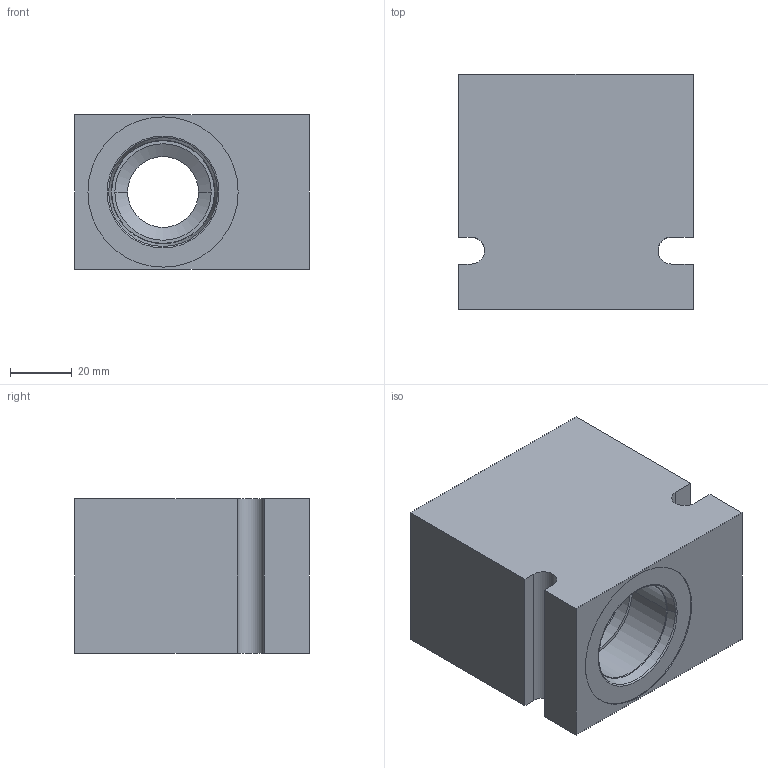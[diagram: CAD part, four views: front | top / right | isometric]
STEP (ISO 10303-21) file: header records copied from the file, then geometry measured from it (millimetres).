
FILE_DESCRIPTION((''),'2;1');
FILE_NAME('7023240','2007-11-12T',('KC2'),(''),'PRO/ENGINEER BY PARAMETRIC TECHNOLOGY CORPORATION, 2005310','PRO/ENGINEER BY PARAMETRIC TECHNOLOGY CORPORATION, 2005310','');
FILE_SCHEMA(('CONFIG_CONTROL_DESIGN'));
Length unit declared in the file: inch
Products named in the file (1): 7023240
Bounding box: 76.2 x 76.2 x 50.29 mm (x, y, z)
Volume: 199177 mm3; surface area: 36644.4 mm2
Topology: 1 solids, 1 shells, 72 faces, 160 edges, 94 vertices
Faces by surface type: cylinder 24, cone 23, plane 17, torus 8
Entity records: 2060 total; most frequent: DIRECTION 376, CARTESIAN_POINT 372, ORIENTED_EDGE 320, EDGE_CURVE 160, AXIS2_PLACEMENT_3D 150, VERTEX_POINT 94, EDGE_LOOP 80, CIRCLE 78
